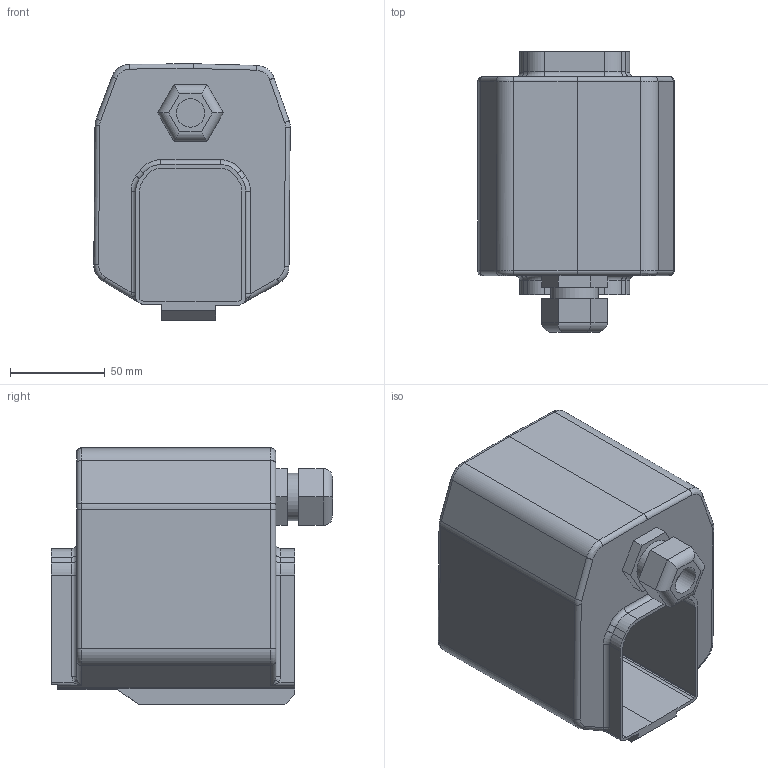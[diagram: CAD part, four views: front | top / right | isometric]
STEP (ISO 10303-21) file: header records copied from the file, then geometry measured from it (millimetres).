
FILE_DESCRIPTION(/* description */ ('Unknown'),/* implementation_level */ '2;1');
FILE_NAME(/* name */ 'MI1201_Boîte en bout M25 AR_SPL',/* time_stamp */ '2018-08-14T14:26:31+02:00',/* author */ ('Unknown'),/* organization */ ('Unknown'),/* preprocessor_version */ 'ST-DEVELOPER v16.7',/* originating_system */ 'DEX',/* authorisation */ $);
FILE_SCHEMA (('AUTOMOTIVE_DESIGN {1 0 10303 214 3 1 1}'));
Length unit declared in the file: millimetre
Products named in the file (1): Boîte d'alimentation en bout AR simplifiée
Bounding box: 103.64 x 148.3 x 135.32 mm (x, y, z)
Volume: 1220466 mm3; surface area: 91242.4 mm2
Topology: 1 solids, 1 shells, 153 faces, 382 edges, 232 vertices
Faces by surface type: plane 63, cylinder 60, torus 16, bspline 14
Full cylindrical faces by diameter (mm): 15 x1, 25 x1
Entity records: 6049 total; most frequent: CARTESIAN_POINT 1322, DIRECTION 773, ORIENTED_EDGE 750, EDGE_CURVE 375, AXIS2_PLACEMENT_3D 274, VERTEX_POINT 231, LINE 225, VECTOR 225
